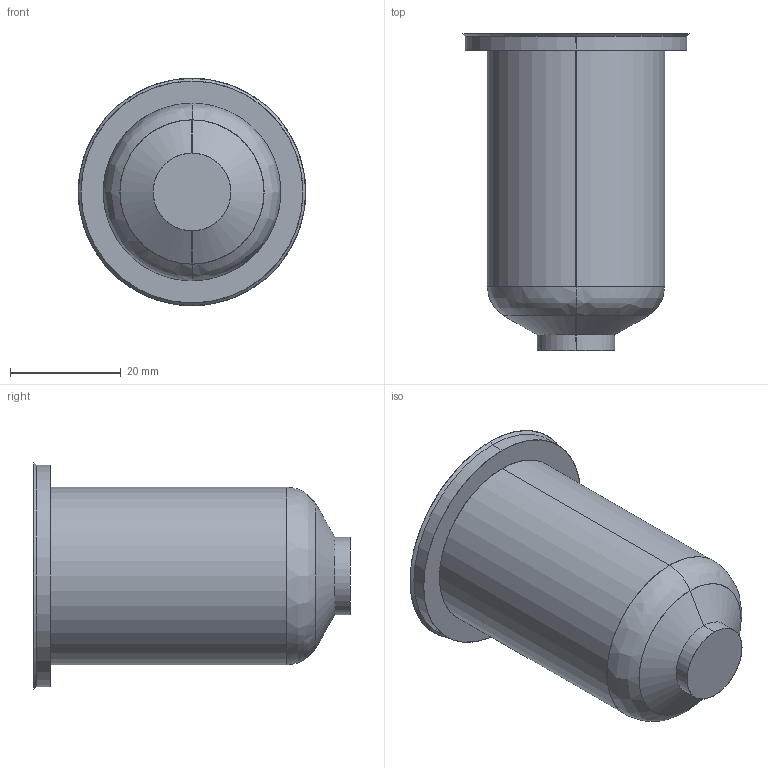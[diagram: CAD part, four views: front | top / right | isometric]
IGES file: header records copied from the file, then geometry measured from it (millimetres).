
Start section: SolidWorks IGES file using analytic representation for surfaces
Global section: file name: C:\Documents and Settings\ws-20\Desktop\TEM\Sede UGEP4101-M-A C-54 L-74 P-0.IGS; native system: SolidWorks 2012; preprocessor: SolidWorks 2012; author: ws-20; date: 120426.091225; units: millimetre
Bounding box: 41 x 57.14 x 41 mm (x, y, z)
Surface area: 7770.5 mm2 (no closed solid volume)
Topology: 0 solids, 0 shells, 15 faces, 272 edges, 272 vertices
Faces by surface type: revolution 10, bspline 5
